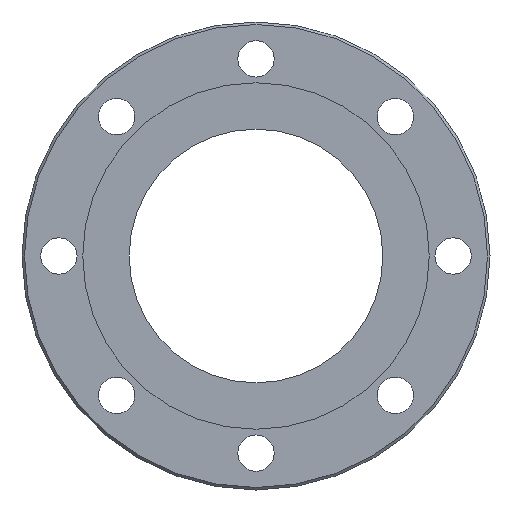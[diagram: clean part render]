
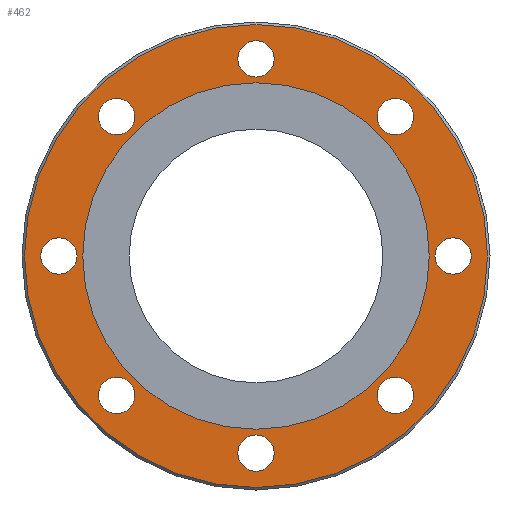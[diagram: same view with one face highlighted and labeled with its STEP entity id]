
A CAD part, left-side view. The second image highlights one B-rep face of the part: STEP entity #462.
In plain terms, the highlighted planar face has unit normal (-1, 0, 0).
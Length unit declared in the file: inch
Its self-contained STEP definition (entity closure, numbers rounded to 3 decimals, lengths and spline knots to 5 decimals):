
#15=FACE_BOUND('',#83,.T.);
#16=FACE_BOUND('',#84,.T.);
#17=FACE_BOUND('',#85,.T.);
#18=FACE_BOUND('',#86,.T.);
#19=FACE_BOUND('',#87,.T.);
#20=FACE_BOUND('',#88,.T.);
#21=FACE_BOUND('',#89,.T.);
#22=FACE_BOUND('',#90,.T.);
#23=FACE_BOUND('',#91,.T.);
#37=PLANE('',#510);
#59=FACE_OUTER_BOUND('',#82,.T.);
#82=EDGE_LOOP('',(#321));
#83=EDGE_LOOP('',(#322,#323));
#84=EDGE_LOOP('',(#324));
#85=EDGE_LOOP('',(#325));
#86=EDGE_LOOP('',(#326));
#87=EDGE_LOOP('',(#327));
#88=EDGE_LOOP('',(#328));
#89=EDGE_LOOP('',(#329));
#90=EDGE_LOOP('',(#330));
#91=EDGE_LOOP('',(#331));
#157=CIRCLE('',#504,5.55);
#162=CIRCLE('',#511,4.1535);
#163=CIRCLE('',#512,4.1535);
#164=CIRCLE('',#513,0.435);
#165=CIRCLE('',#514,0.435);
#166=CIRCLE('',#515,0.435);
#167=CIRCLE('',#516,0.435);
#168=CIRCLE('',#517,0.435);
#169=CIRCLE('',#518,0.435);
#170=CIRCLE('',#519,0.435);
#171=CIRCLE('',#520,0.435);
#203=VERTEX_POINT('',#730);
#208=VERTEX_POINT('',#744);
#209=VERTEX_POINT('',#745);
#210=VERTEX_POINT('',#748);
#211=VERTEX_POINT('',#750);
#212=VERTEX_POINT('',#752);
#213=VERTEX_POINT('',#754);
#214=VERTEX_POINT('',#756);
#215=VERTEX_POINT('',#758);
#216=VERTEX_POINT('',#760);
#217=VERTEX_POINT('',#762);
#248=EDGE_CURVE('',#203,#203,#157,.T.);
#255=EDGE_CURVE('',#208,#209,#162,.T.);
#256=EDGE_CURVE('',#209,#208,#163,.T.);
#257=EDGE_CURVE('',#210,#210,#164,.T.);
#258=EDGE_CURVE('',#211,#211,#165,.T.);
#259=EDGE_CURVE('',#212,#212,#166,.T.);
#260=EDGE_CURVE('',#213,#213,#167,.T.);
#261=EDGE_CURVE('',#214,#214,#168,.T.);
#262=EDGE_CURVE('',#215,#215,#169,.T.);
#263=EDGE_CURVE('',#216,#216,#170,.T.);
#264=EDGE_CURVE('',#217,#217,#171,.T.);
#321=ORIENTED_EDGE('',*,*,#248,.F.);
#322=ORIENTED_EDGE('',*,*,#255,.F.);
#323=ORIENTED_EDGE('',*,*,#256,.F.);
#324=ORIENTED_EDGE('',*,*,#257,.T.);
#325=ORIENTED_EDGE('',*,*,#258,.T.);
#326=ORIENTED_EDGE('',*,*,#259,.T.);
#327=ORIENTED_EDGE('',*,*,#260,.T.);
#328=ORIENTED_EDGE('',*,*,#261,.T.);
#329=ORIENTED_EDGE('',*,*,#262,.T.);
#330=ORIENTED_EDGE('',*,*,#263,.T.);
#331=ORIENTED_EDGE('',*,*,#264,.T.);
#462=ADVANCED_FACE('',(#59,#15,#16,#17,#18,#19,#20,#21,#22,#23),#37,.T.);
#504=AXIS2_PLACEMENT_3D('',#731,#576,#577);
#510=AXIS2_PLACEMENT_3D('',#743,#590,#591);
#511=AXIS2_PLACEMENT_3D('',#746,#592,#593);
#512=AXIS2_PLACEMENT_3D('',#747,#594,#595);
#513=AXIS2_PLACEMENT_3D('',#749,#596,#597);
#514=AXIS2_PLACEMENT_3D('',#751,#598,#599);
#515=AXIS2_PLACEMENT_3D('',#753,#600,#601);
#516=AXIS2_PLACEMENT_3D('',#755,#602,#603);
#517=AXIS2_PLACEMENT_3D('',#757,#604,#605);
#518=AXIS2_PLACEMENT_3D('',#759,#606,#607);
#519=AXIS2_PLACEMENT_3D('',#761,#608,#609);
#520=AXIS2_PLACEMENT_3D('',#763,#610,#611);
#576=DIRECTION('center_axis',(1.,0.,0.));
#577=DIRECTION('ref_axis',(0.,-1.,0.));
#590=DIRECTION('center_axis',(-1.,0.,0.));
#591=DIRECTION('ref_axis',(0.,0.,1.));
#592=DIRECTION('center_axis',(-1.,0.,0.));
#593=DIRECTION('ref_axis',(0.,0.,1.));
#594=DIRECTION('center_axis',(-1.,0.,0.));
#595=DIRECTION('ref_axis',(0.,0.,1.));
#596=DIRECTION('center_axis',(1.,0.,0.));
#597=DIRECTION('ref_axis',(0.,0.,-1.));
#598=DIRECTION('center_axis',(1.,0.,0.));
#599=DIRECTION('ref_axis',(0.,-0.707,-0.707));
#600=DIRECTION('center_axis',(1.,0.,0.));
#601=DIRECTION('ref_axis',(0.,-1.,0.));
#602=DIRECTION('center_axis',(1.,0.,0.));
#603=DIRECTION('ref_axis',(0.,-0.707,0.707));
#604=DIRECTION('center_axis',(1.,0.,0.));
#605=DIRECTION('ref_axis',(0.,0.,
1.));
#606=DIRECTION('center_axis',(1.,0.,0.));
#607=DIRECTION('ref_axis',(0.,0.707,0.707));
#608=DIRECTION('center_axis',(1.,0.,0.));
#609=DIRECTION('ref_axis',(0.,1.,0.));
#610=DIRECTION('center_axis',(1.,0.,0.));
#611=DIRECTION('ref_axis',(0.,0.707,-0.707));
#730=CARTESIAN_POINT('',(-2.642,5.55,0.));
#731=CARTESIAN_POINT('Origin',(-2.642,0.,0.));
#743=CARTESIAN_POINT('Origin',(-2.642,4.1535,0.));
#744=CARTESIAN_POINT('',(-2.642,4.1535,0.));
#745=CARTESIAN_POINT('',(-2.642,-4.1535,0.));
#746=CARTESIAN_POINT('Origin',(-2.642,0.,0.));
#747=CARTESIAN_POINT('Origin',(-2.642,0.,0.));
#748=CARTESIAN_POINT('',(-2.642,0.,5.16));
#749=CARTESIAN_POINT('Origin',(-2.642,0.,4.725));
#750=CARTESIAN_POINT('',(-2.642,3.64867,3.64867));
#751=CARTESIAN_POINT('Origin',(-2.642,3.34108,3.34108));
#752=CARTESIAN_POINT('',(-2.642,5.16,0.));
#753=CARTESIAN_POINT('Origin',(-2.642,4.725,0.));
#754=CARTESIAN_POINT('',(-2.642,3.64867,-3.64867));
#755=CARTESIAN_POINT('Origin',(-2.642,3.34108,-3.34108));
#756=CARTESIAN_POINT('',(-2.642,0.,-5.16));
#757=CARTESIAN_POINT('Origin',(-2.642,0.,-4.725));
#758=CARTESIAN_POINT('',(-2.642,-3.64867,-3.64867));
#759=CARTESIAN_POINT('Origin',(-2.642,-3.34108,-3.34108));
#760=CARTESIAN_POINT('',(-2.642,-5.16,0.));
#761=CARTESIAN_POINT('Origin',(-2.642,-4.725,0.));
#762=CARTESIAN_POINT('',(-2.642,-3.64867,3.64867));
#763=CARTESIAN_POINT('Origin',(-2.642,-3.34108,3.34108));
